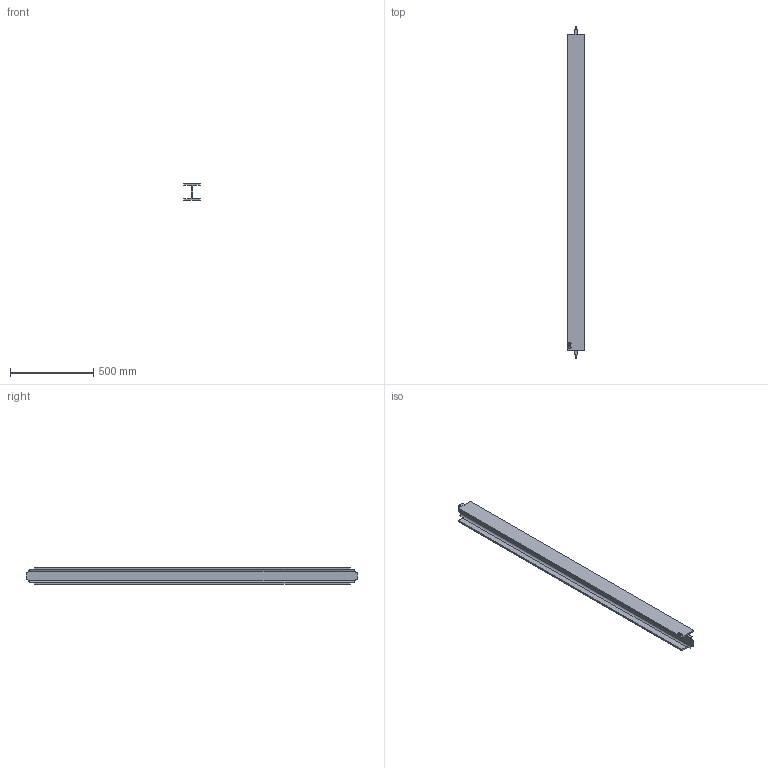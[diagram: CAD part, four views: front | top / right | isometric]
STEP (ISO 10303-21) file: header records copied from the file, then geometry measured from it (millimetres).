
FILE_DESCRIPTION (( 'STEP AP214' ), '1' );
FILE_NAME ('CCJ029-REP.013 - POUTRE A3-B4.STEP', '2025-02-13T07:34:43', ( '' ), ( '' ), 'SwSTEP 2.0', 'SolidWorks 2021', '' );
FILE_SCHEMA (( 'AUTOMOTIVE_DESIGN' ));
Length unit declared in the file: millimetre
Products named in the file (1): CCJ029-REP.013 - POUTRE A3-B4
Bounding box: 100 x 1988.5 x 100 mm (x, y, z)
Volume: 4961516.2 mm3; surface area: 1094520.1 mm2
Topology: 1 solids, 1 shells, 72 faces, 198 edges, 132 vertices
Faces by surface type: plane 35, bspline 23, cylinder 14
Entity records: 3874 total; most frequent: CARTESIAN_POINT 2138, ORIENTED_EDGE 396, DIRECTION 272, EDGE_CURVE 198, VERTEX_POINT 132, LINE 116, VECTOR 116, EDGE_LOOP 82
